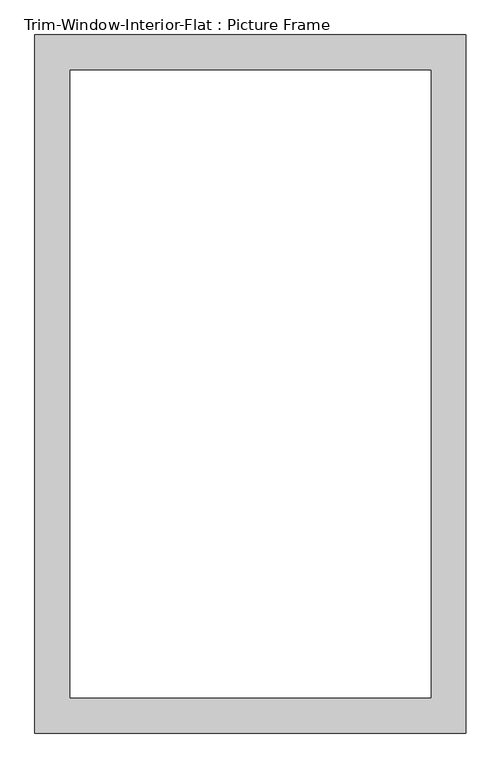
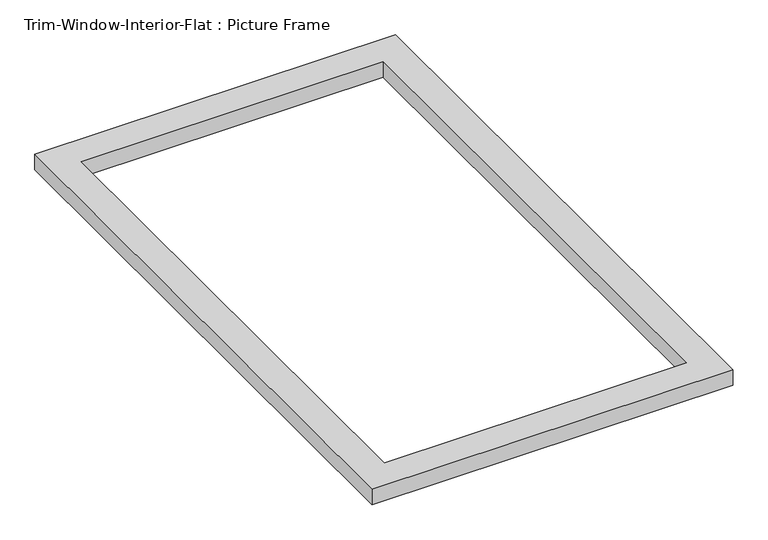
"""IFC4 building model written with IfcOpenShell, lengths in millimetres: proxy geometry, Trim-Window-Interior-Flat : Picture Frame."""

from ifc_helpers import new_model, si_unit, origin, origin_with_axes, place, context, project, spatial, polyline, outline, extrude, source, transform, mapped, element, save


def trim_window_interior_flat_picture_frame_a60bff81(model_context):
    return source(origin(), model_context, "Body", "SweptSolid", [
        extrude(outline(polyline([(349.25, 44.45), (349.25, -1085.85), (-349.25, -1085.85), (-349.25, 44.45), (349.25, 44.45)]), holes=[polyline([(292.1, -12.7), (-292.1, -12.7), (-292.1, -1028.7), (292.1, -1028.7), (292.1, -12.7)])]), origin_with_axes(), (0.0, 0.0, 1.0), 31.75),
    ])


if __name__ == "__main__":
    model = new_model("IFC4")
    model_context = context("Model", 3, world=origin())
    ifc_project = project(units=[si_unit("LENGTHUNIT", "METRE", prefix="MILLI")], contexts=[model_context])
    site = spatial("IfcSite", under=ifc_project)
    building = spatial("IfcBuilding", under=site)
    placement = place(None, origin())
    trim_window_interior_flat_picture_frame_shape = trim_window_interior_flat_picture_frame_a60bff81(model_context)
    element("IfcBuildingElementProxy", 1, Name="Trim-Window-Interior-Flat : Picture Frame", ObjectType="Trim-Window-Interior-Flat : Picture Frame", at=placement, inside=building, context=model_context, shape_type="MappedRepresentation", body=[
        mapped(trim_window_interior_flat_picture_frame_shape, transform((0.0, 0.0, 0.0), x_axis=(1.0, 0.0, 0.0), y_axis=(0.0, 1.0, 0.0), z_axis=(0.0, 0.0, 1.0))),
    ])
    save(model, "model.ifc")
